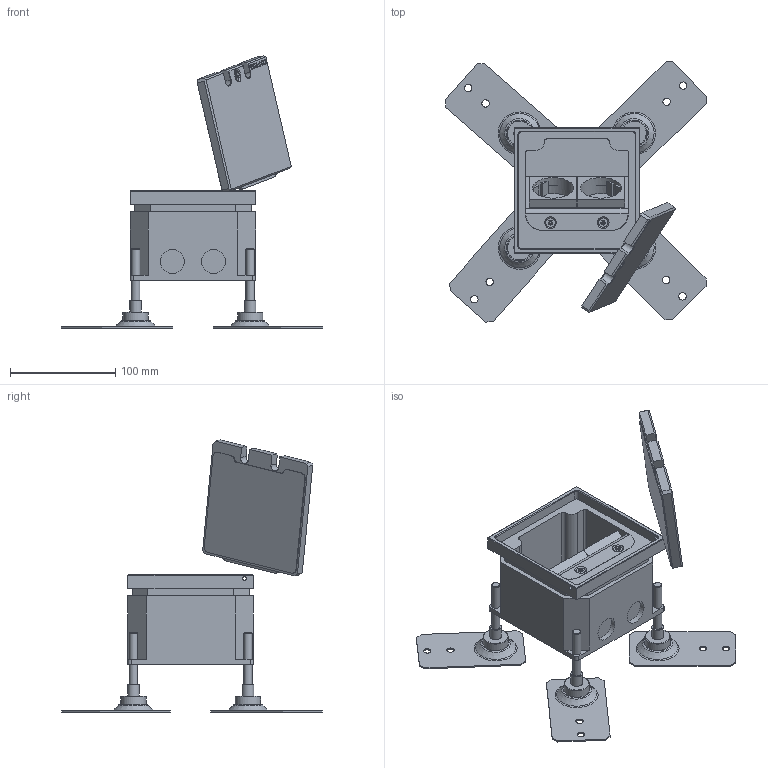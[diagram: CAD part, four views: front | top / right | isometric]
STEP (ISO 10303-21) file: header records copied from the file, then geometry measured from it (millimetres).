
FILE_DESCRIPTION(/* description */ (''),/* implementation_level */ '2;1');
FILE_NAME(/* name */ 'K:\Inventor\Dummy Zeichnungen Bodendosen\FONTO.4301.OPEN.stp',/* time_stamp */ '2019-05-08T10:32:00+02:00',/* author */ ('mayrhofer'),/* organization */ (''),/* preprocessor_version */ 'ST-DEVELOPER v17.2',/* originating_system */ 'Autodesk Inventor 2019',/* authorisation */ '');
FILE_SCHEMA (('AUTOMOTIVE_DESIGN { 1 0 10303 214 3 1 1 }'));
Length unit declared in the file: millimetre
Products named in the file (8): FONTO.4301; Kokille_42xx43xx; Nivellierfuß; Deckel_4301; Dichtung FONTO 4301; 1533631_3DINV; BS 4183 - M5 x 6; 309.LEG.45°.BS.MOSAIC.WEISS.2MOD.
Assembly tree (12 placements, depth 2):
  FONTO.4301
    Kokille_42xx43xx
    Nivellierfuß  x4
    Deckel_4301
    Dichtung FONTO 4301
    1533631_3DINV
    BS 4183 - M5 x 6  x2
    309.LEG.45°.BS.MOSAIC.WEISS.2MOD.  x2
Bounding box: 247.79 x 246.79 x 258.2 mm (x, y, z)
Volume: 759765.2 mm3; surface area: 241243.8 mm2
Topology: 12 solids, 12 shells, 592 faces, 1490 edges, 974 vertices
Faces by surface type: plane 347, cylinder 137, cone 52, torus 37, bspline 15, sphere 4
Full cylindrical faces by diameter (mm): 0.1 x2, 3.5 x14, 4.019 x2, 5 x6, 6 x2, 6.647 x4, 6.7 x1, 7 x8, 8 x4, 8.75 x2, 11 x4, 22.835 x2, 24 x4, 39 x2
Entity records: 12732 total; most frequent: CARTESIAN_POINT 2619, ORIENTED_EDGE 2024, DIRECTION 2010, EDGE_CURVE 1012, AXIS2_PLACEMENT_3D 675, VERTEX_POINT 663, LINE 660, VECTOR 660
